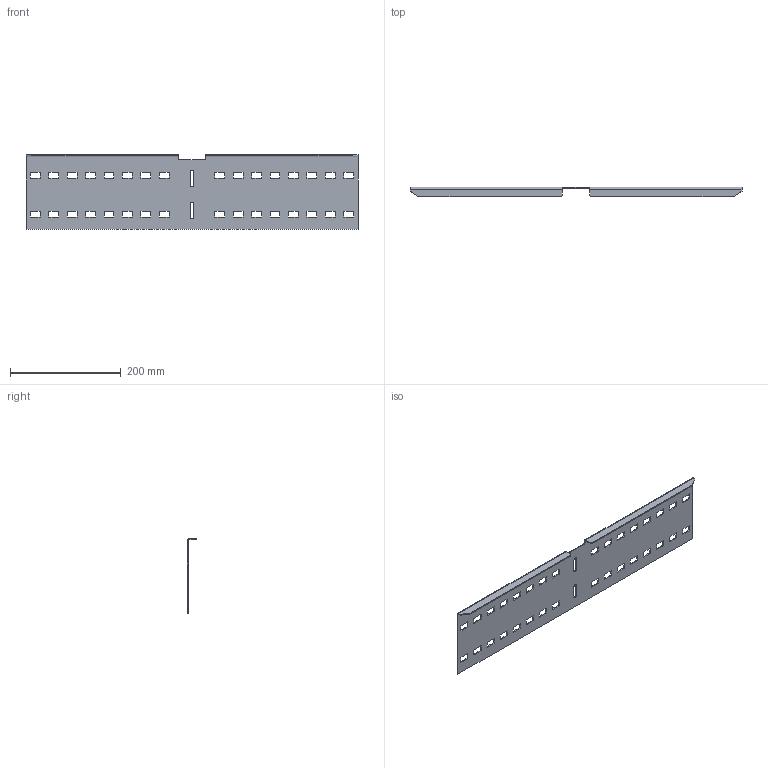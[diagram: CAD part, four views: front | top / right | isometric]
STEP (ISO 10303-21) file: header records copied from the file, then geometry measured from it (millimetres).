
FILE_DESCRIPTION(('Creo Elements/Direct Modeling STEP Export'),'2;1');
FILE_NAME('WPCH15-HDG.stp','2016-08-24T11:47:48',(''),(''),'PTC Creo Elements/Direct Modeling STEP processor for AP214 (Solid Model)','PTC Creo Elements/Direct Modeling 19.0C 15-Aug-2015 (C) Parametric Technology GmbH','');
FILE_SCHEMA(('AUTOMOTIVE_DESIGN { 1 0 10303 214 1 1 1 1 }'));
Length unit declared in the file: millimetre
Products named in the file (2): WPCH15
Assembly tree (1 placements, depth 2):
  WPCH15
    WPCH15
Bounding box: 599.4 x 17.5 x 135 mm (x, y, z)
Volume: 162766.2 mm3; surface area: 169782.1 mm2
Topology: 1 solids, 1 shells, 288 faces, 858 edges, 572 vertices
Faces by surface type: plane 148, cylinder 140
Entity records: 9923 total; most frequent: CARTESIAN_POINT 1720, DIRECTION 1718, ORIENTED_EDGE 1716, EDGE_CURVE 858, VECTOR 578, LINE 578, VERTEX_POINT 572, AXIS2_PLACEMENT_3D 570
